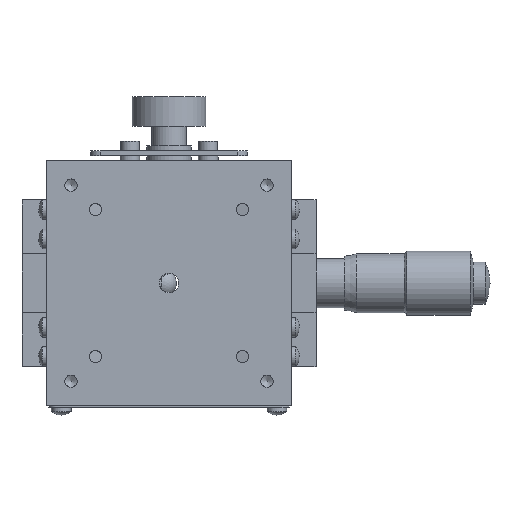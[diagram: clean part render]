
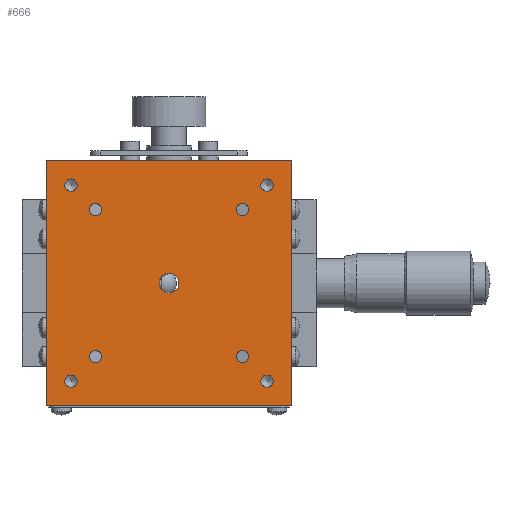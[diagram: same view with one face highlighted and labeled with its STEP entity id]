
A CAD part, top view. The second image highlights one B-rep face of the part: STEP entity #666.
In plain terms, the highlighted planar face has unit normal (0, 0, 1).
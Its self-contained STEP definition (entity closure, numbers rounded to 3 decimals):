
#666 = ADVANCED_FACE( '', ( #1469, #1470, #1471, #1472, #1473, #1474, #1475, #1476, #1477, #1478 ), #1479, .T. );
#1469 = FACE_BOUND( '', #2380, .T. );
#1470 = FACE_BOUND( '', #2381, .T. );
#1471 = FACE_BOUND( '', #2382, .T. );
#1472 = FACE_BOUND( '', #2383, .T. );
#1473 = FACE_BOUND( '', #2384, .T. );
#1474 = FACE_BOUND( '', #2385, .T. );
#1475 = FACE_BOUND( '', #2386, .T. );
#1476 = FACE_BOUND( '', #2387, .T. );
#1477 = FACE_BOUND( '', #2388, .T. );
#1478 = FACE_OUTER_BOUND( '', #2389, .T. );
#1479 = PLANE( '', #2390 );
#2380 = EDGE_LOOP( '', ( #4069 ) );
#2381 = EDGE_LOOP( '', ( #4070 ) );
#2382 = EDGE_LOOP( '', ( #4071 ) );
#2383 = EDGE_LOOP( '', ( #4072 ) );
#2384 = EDGE_LOOP( '', ( #4073 ) );
#2385 = EDGE_LOOP( '', ( #4074 ) );
#2386 = EDGE_LOOP( '', ( #4075 ) );
#2387 = EDGE_LOOP( '', ( #4076 ) );
#2388 = EDGE_LOOP( '', ( #4077 ) );
#2389 = EDGE_LOOP( '', ( #4078, #4079, #4080, #4081 ) );
#2390 = AXIS2_PLACEMENT_3D( '', #4082, #4083, #4084 );
#4069 = ORIENTED_EDGE( '', *, *, #5145, .T. );
#4070 = ORIENTED_EDGE( '', *, *, #5073, .T. );
#4071 = ORIENTED_EDGE( '', *, *, #4946, .T. );
#4072 = ORIENTED_EDGE( '', *, *, #5287, .T. );
#4073 = ORIENTED_EDGE( '', *, *, #5067, .T. );
#4074 = ORIENTED_EDGE( '', *, *, #4805, .T. );
#4075 = ORIENTED_EDGE( '', *, *, #4707, .T. );
#4076 = ORIENTED_EDGE( '', *, *, #5288, .T. );
#4077 = ORIENTED_EDGE( '', *, *, #4900, .T. );
#4078 = ORIENTED_EDGE( '', *, *, #5163, .F. );
#4079 = ORIENTED_EDGE( '', *, *, #4749, .F. );
#4080 = ORIENTED_EDGE( '', *, *, #4930, .F. );
#4081 = ORIENTED_EDGE( '', *, *, #5108, .F. );
#4082 = CARTESIAN_POINT( '', ( -25., 25., 18. ) );
#4083 = DIRECTION( '', ( 0., 0., 1. ) );
#4084 = DIRECTION( '', ( 0., 1., 0. ) );
#4707 = EDGE_CURVE( '', #5513, #5513, #5514, .T. );
#4749 = EDGE_CURVE( '', #5586, #5588, #5589, .T. );
#4805 = EDGE_CURVE( '', #5680, #5680, #5681, .T. );
#4900 = EDGE_CURVE( '', #5833, #5833, #5834, .T. );
#4930 = EDGE_CURVE( '', #5879, #5586, #5881, .T. );
#4946 = EDGE_CURVE( '', #5906, #5906, #5907, .T. );
#5067 = EDGE_CURVE( '', #6089, #6089, #6090, .T. );
#5073 = EDGE_CURVE( '', #6098, #6098, #6099, .T. );
#5108 = EDGE_CURVE( '', #6146, #5879, #6148, .T. );
#5145 = EDGE_CURVE( '', #6196, #6196, #6197, .T. );
#5163 = EDGE_CURVE( '', #5588, #6146, #6222, .T. );
#5287 = EDGE_CURVE( '', #6390, #6390, #6391, .T. );
#5288 = EDGE_CURVE( '', #6392, #6392, #6393, .T. );
#5513 = VERTEX_POINT( '', #6783 );
#5514 = CIRCLE( '', #6784, 1.25 );
#5586 = VERTEX_POINT( '', #6895 );
#5588 = VERTEX_POINT( '', #6898 );
#5589 = LINE( '', #6899, #6900 );
#5680 = VERTEX_POINT( '', #7011 );
#5681 = CIRCLE( '', #7012, 1.25 );
#5833 = VERTEX_POINT( '', #7231 );
#5834 = CIRCLE( '', #7232, 1.25 );
#5879 = VERTEX_POINT( '', #7289 );
#5881 = LINE( '', #7292, #7293 );
#5906 = VERTEX_POINT( '', #7318 );
#5907 = CIRCLE( '', #7319, 1.25 );
#6089 = VERTEX_POINT( '', #7676 );
#6090 = CIRCLE( '', #7677, 1.25 );
#6098 = VERTEX_POINT( '', #7725 );
#6099 = CIRCLE( '', #7726, 1.25 );
#6146 = VERTEX_POINT( '', #7784 );
#6148 = LINE( '', #7787, #7788 );
#6196 = VERTEX_POINT( '', #7915 );
#6197 = CIRCLE( '', #7916, 2. );
#6222 = LINE( '', #7945, #7946 );
#6390 = VERTEX_POINT( '', #8346 );
#6391 = CIRCLE( '', #8347, 1.25 );
#6392 = VERTEX_POINT( '', #8348 );
#6393 = CIRCLE( '', #8349, 1.25 );
#6783 = CARTESIAN_POINT( '', ( -5., 6.25, 18. ) );
#6784 = AXIS2_PLACEMENT_3D( '', #8587, #8588, #8589 );
#6895 = CARTESIAN_POINT( '', ( -50., 50., 18. ) );
#6898 = CARTESIAN_POINT( '', ( 0., 50., 18. ) );
#6899 = CARTESIAN_POINT( '', ( -25., 50., 18. ) );
#6900 = VECTOR( '', #8645, 1000. );
#7011 = CARTESIAN_POINT( '', ( -5., 46.25, 18. ) );
#7012 = AXIS2_PLACEMENT_3D( '', #8726, #8727, #8728 );
#7231 = CARTESIAN_POINT( '', ( -45., 46.25, 18. ) );
#7232 = AXIS2_PLACEMENT_3D( '', #8856, #8857, #8858 );
#7289 = CARTESIAN_POINT( '', ( -50., 0., 18. ) );
#7292 = CARTESIAN_POINT( '', ( -50., 25., 18. ) );
#7293 = VECTOR( '', #8893, 1000. );
#7318 = CARTESIAN_POINT( '', ( -10., 11.25, 18. ) );
#7319 = AXIS2_PLACEMENT_3D( '', #8921, #8922, #8923 );
#7676 = CARTESIAN_POINT( '', ( -40., 41.25, 18. ) );
#7677 = AXIS2_PLACEMENT_3D( '', #9072, #9073, #9074 );
#7725 = CARTESIAN_POINT( '', ( -10., 41.25, 18. ) );
#7726 = AXIS2_PLACEMENT_3D( '', #9079, #9080, #9081 );
#7784 = CARTESIAN_POINT( '', ( 0., 0., 18. ) );
#7787 = CARTESIAN_POINT( '', ( -25., 0., 18. ) );
#7788 = VECTOR( '', #9121, 1000. );
#7915 = CARTESIAN_POINT( '', ( -25., 27., 18. ) );
#7916 = AXIS2_PLACEMENT_3D( '', #9156, #9157, #9158 );
#7945 = CARTESIAN_POINT( '', ( 0., 25., 18. ) );
#7946 = VECTOR( '', #9184, 1000. );
#8346 = CARTESIAN_POINT( '', ( -40., 11.25, 18. ) );
#8347 = AXIS2_PLACEMENT_3D( '', #9321, #9322, #9323 );
#8348 = CARTESIAN_POINT( '', ( -45., 6.25, 18. ) );
#8349 = AXIS2_PLACEMENT_3D( '', #9324, #9325, #9326 );
#8587 = CARTESIAN_POINT( '', ( -5., 5., 18. ) );
#8588 = DIRECTION( '', ( 0., 0., -1. ) );
#8589 = DIRECTION( '', ( 0., 1., 0. ) );
#8645 = DIRECTION( '', ( 1., 0., 0. ) );
#8726 = CARTESIAN_POINT( '', ( -5., 45., 18. ) );
#8727 = DIRECTION( '', ( 0., 0., -1. ) );
#8728 = DIRECTION( '', ( 0., 1., 0. ) );
#8856 = CARTESIAN_POINT( '', ( -45., 45., 18. ) );
#8857 = DIRECTION( '', ( 0., 0., -1. ) );
#8858 = DIRECTION( '', ( 0., 1., 0. ) );
#8893 = DIRECTION( '', ( 0., 1., 0. ) );
#8921 = CARTESIAN_POINT( '', ( -10., 10., 18. ) );
#8922 = DIRECTION( '', ( 0., 0., -1. ) );
#8923 = DIRECTION( '', ( 0., 1., 0. ) );
#9072 = CARTESIAN_POINT( '', ( -40., 40., 18. ) );
#9073 = DIRECTION( '', ( 0., 0., -1. ) );
#9074 = DIRECTION( '', ( 0., 1., 0. ) );
#9079 = CARTESIAN_POINT( '', ( -10., 40., 18. ) );
#9080 = DIRECTION( '', ( 0., 0., -1. ) );
#9081 = DIRECTION( '', ( 0., 1., 0. ) );
#9121 = DIRECTION( '', ( -1., 0., 0. ) );
#9156 = CARTESIAN_POINT( '', ( -25., 25., 18. ) );
#9157 = DIRECTION( '', ( 0., 0., -1. ) );
#9158 = DIRECTION( '', ( 0., 1., 0. ) );
#9184 = DIRECTION( '', ( 0., -1., 0. ) );
#9321 = CARTESIAN_POINT( '', ( -40., 10., 18. ) );
#9322 = DIRECTION( '', ( 0., 0., -1. ) );
#9323 = DIRECTION( '', ( 0., 1., 0. ) );
#9324 = CARTESIAN_POINT( '', ( -45., 5., 18. ) );
#9325 = DIRECTION( '', ( 0., 0., -1. ) );
#9326 = DIRECTION( '', ( 0., 1., 0. ) );
